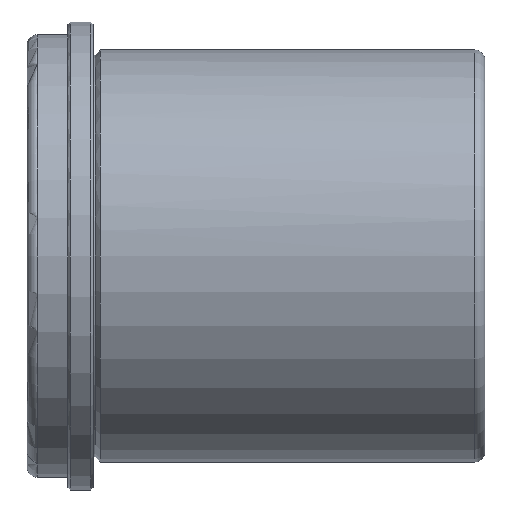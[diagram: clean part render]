
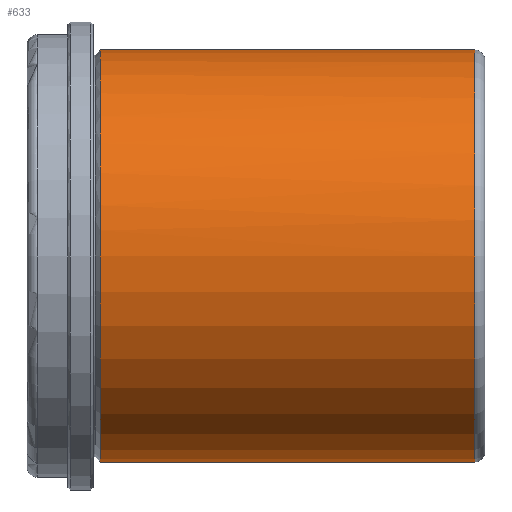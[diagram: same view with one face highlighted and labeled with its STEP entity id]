
A CAD part, front view. The second image highlights one B-rep face of the part: STEP entity #633.
In plain terms, the highlighted cylindrical face has radius 40.5 mm (diameter 81 mm), a partial arc.
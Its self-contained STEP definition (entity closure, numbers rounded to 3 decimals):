
#407=CARTESIAN_POINT('Line Origine',(77.,0.,40.5)) ;
#411=CARTESIAN_POINT('Vertex',(75.,0.,40.5)) ;
#413=CARTESIAN_POINT('Vertex',(1.414,0.,40.5)) ;
#427=CARTESIAN_POINT('Vertex',(75.,0.,-40.5)) ;
#430=CARTESIAN_POINT('Line Origine',(77.,0.,-40.5)) ;
#434=CARTESIAN_POINT('Vertex',(1.414,0.,-40.5)) ;
#590=CARTESIAN_POINT('Axis2P3D Location',(77.,0.,0.)) ;
#595=CARTESIAN_POINT('Axis2P3D Location',(75.,0.,0.)) ;
#599=CARTESIAN_POINT('Vertex',(75.,-40.5,0.)) ;
#602=CARTESIAN_POINT('Axis2P3D Location',(75.,0.,0.)) ;
#608=CARTESIAN_POINT('Control Point',(1.414,0.,40.5)) ;
#609=CARTESIAN_POINT('Control Point',(1.414,-6.362,40.5)) ;
#610=CARTESIAN_POINT('Control Point',(1.414,-12.723,39.251)) ;
#611=CARTESIAN_POINT('Control Point',(1.414,-18.758,36.751)) ;
#612=CARTESIAN_POINT('Control Point',(1.414,-29.521,29.521)) ;
#613=CARTESIAN_POINT('Control Point',(1.414,-36.751,18.758)) ;
#614=CARTESIAN_POINT('Control Point',(1.414,-39.251,12.723)) ;
#615=CARTESIAN_POINT('Control Point',(1.414,-40.5,6.362)) ;
#616=CARTESIAN_POINT('Control Point',(1.414,-40.5,0.)) ;
#617=CARTESIAN_POINT('Vertex',(1.414,-40.5,0.)) ;
#620=CARTESIAN_POINT('Axis2P3D Location',(1.414,0.,0.)) ;
#408=DIRECTION('Vector Direction',(-1.,0.,0.)) ;
#431=DIRECTION('Vector Direction',(-1.,0.,0.)) ;
#591=DIRECTION('Axis2P3D Direction',(-1.,-0.,-0.)) ;
#592=DIRECTION('Axis2P3D XDirection',(0.,0.,-1.)) ;
#596=DIRECTION('Axis2P3D Direction',(-1.,-0.,-0.)) ;
#603=DIRECTION('Axis2P3D Direction',(-1.,-0.,-0.)) ;
#621=DIRECTION('Axis2P3D Direction',(-1.,-0.,-0.)) ;
#593=AXIS2_PLACEMENT_3D('Cylinder Axis2P3D',#590,#591,#592) ;
#597=AXIS2_PLACEMENT_3D('Circle Axis2P3D',#595,#596,$) ;
#604=AXIS2_PLACEMENT_3D('Circle Axis2P3D',#602,#603,$) ;
#622=AXIS2_PLACEMENT_3D('Circle Axis2P3D',#620,#621,$) ;
#626=ORIENTED_EDGE('',*,*,#436,.T.) ;
#627=ORIENTED_EDGE('',*,*,#601,.F.) ;
#628=ORIENTED_EDGE('',*,*,#606,.F.) ;
#629=ORIENTED_EDGE('',*,*,#415,.T.) ;
#630=ORIENTED_EDGE('',*,*,#619,.T.) ;
#631=ORIENTED_EDGE('',*,*,#624,.T.) ;
#409=VECTOR('Line Direction',#408,1.) ;
#432=VECTOR('Line Direction',#431,1.) ;
#633=ADVANCED_FACE('CF 632 63 x 90',(#632),#594,.T.) ;
#607=B_SPLINE_CURVE_WITH_KNOTS('',5,(#608,#609,#610,#611,#612,#613,#614,#615,#616),.UNSPECIFIED.,.F.,.U.,(6,3,6),(-31.809,0.,31.809),.UNSPECIFIED.) ;
#598=CIRCLE('generated circle',#597,40.5) ;
#605=CIRCLE('generated circle',#604,40.5) ;
#623=CIRCLE('generated circle',#622,40.5) ;
#594=CYLINDRICAL_SURFACE('generated cylinder',#593,40.5) ;
#415=EDGE_CURVE('',#412,#414,#410,.T.) ;
#436=EDGE_CURVE('',#435,#428,#433,.F.) ;
#601=EDGE_CURVE('',#600,#428,#598,.F.) ;
#606=EDGE_CURVE('',#412,#600,#605,.F.) ;
#619=EDGE_CURVE('',#414,#618,#607,.T.) ;
#624=EDGE_CURVE('',#618,#435,#623,.F.) ;
#625=EDGE_LOOP('',(#626,#627,#628,#629,#630,#631)) ;
#632=FACE_OUTER_BOUND('',#625,.T.) ;
#410=LINE('Line',#407,#409) ;
#433=LINE('Line',#430,#432) ;
#412=VERTEX_POINT('',#411) ;
#414=VERTEX_POINT('',#413) ;
#428=VERTEX_POINT('',#427) ;
#435=VERTEX_POINT('',#434) ;
#600=VERTEX_POINT('',#599) ;
#618=VERTEX_POINT('',#617) ;
